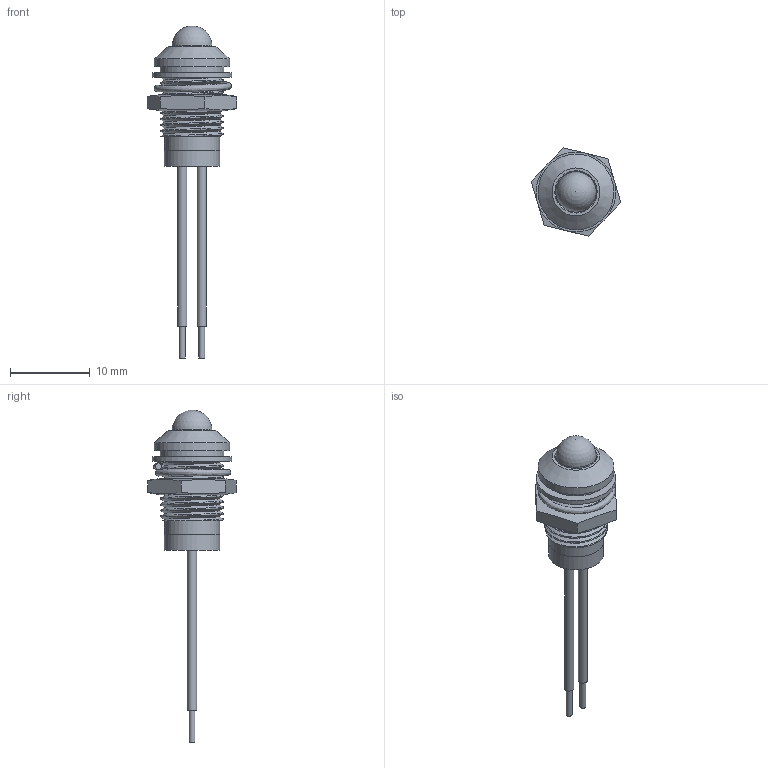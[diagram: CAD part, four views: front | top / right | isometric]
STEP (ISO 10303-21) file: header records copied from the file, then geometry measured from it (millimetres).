
FILE_DESCRIPTION( ( 'Unknown' ), '1' );
FILE_NAME( 'D:/My Documents/Q series 3D files/Q8P7CXXR.stp', 'Unknown', ( 'Unknown' ), ( 'Unknown' ), 'PSStep 15.0.49', 'Unknown', ' ' );
FILE_SCHEMA( ( 'AUTOMOTIVE_DESIGN { 1 0 10303 214 1 1 1 1 }' ) );
Length unit declared in the file: millimetre
Products named in the file (9): Assem1; 14-0145; 34-0083; 13-0036; 21-0026; 5mmLEDshort-red; 26-0048; wire-red short; wire-black-short
Assembly tree (8 placements, depth 2):
  Assem1
    14-0145
    34-0083
    13-0036
    21-0026
    5mmLEDshort-red
    26-0048
    wire-red short
    wire-black-short
Bounding box: 11.22 x 11.08 x 41.6 mm (x, y, z)
Volume: 708 mm3; surface area: 1859.2 mm2
Topology: 8 solids, 8 shells, 118 faces, 282 edges, 189 vertices
Faces by surface type: plane 67, cylinder 29, cone 12, bspline 8, torus 1, sphere 1
Full cylindrical faces by diameter (mm): 0.75 x4, 1.15 x2, 1.25 x2, 5 x1, 5.1 x1, 5.9 x1, 6 x1, 6.9 x2, 7.8 x1, 8 x1, 9.5 x1, 10 x1
Entity records: 14152 total; most frequent: CARTESIAN_POINT 10534, DIRECTION 515, ORIENTED_EDGE 482, EDGE_CURVE 241, AXIS2_PLACEMENT_3D 208, VERTEX_POINT 176, EDGE_LOOP 164, FACE_OUTER_BOUND 140
